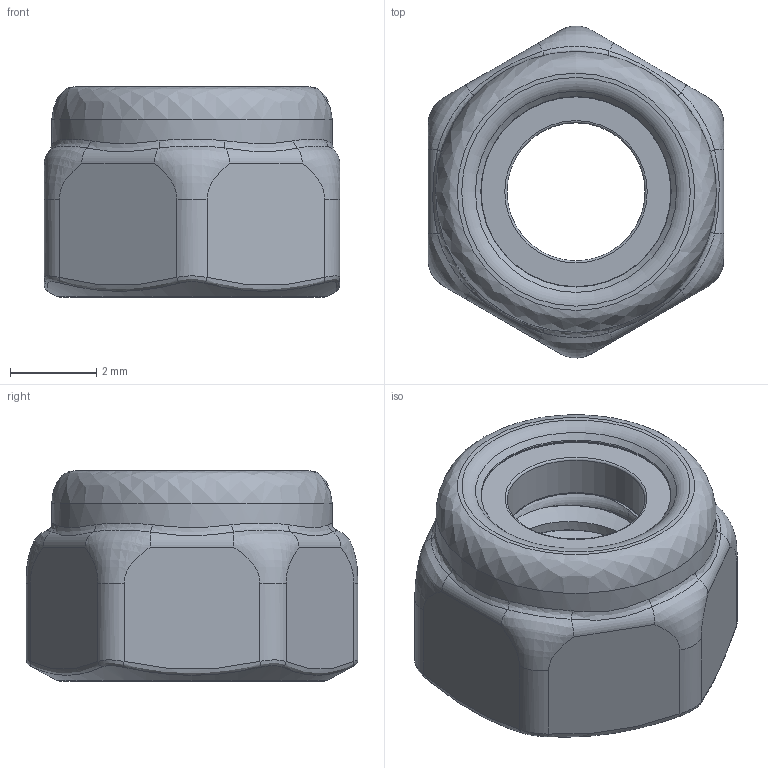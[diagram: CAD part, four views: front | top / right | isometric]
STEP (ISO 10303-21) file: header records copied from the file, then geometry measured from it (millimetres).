
FILE_DESCRIPTION(/* description */ ('','CAx-IF Rec.Pracs.---Representation and Presentation of Product Manufacturing Information (PMI)---4.0---2014-10-13'),/* implementation_level */ '2;1');
FILE_NAME(/* name */ '2812-0004-0007.step',/* time_stamp */ '2024-11-21T13:48:35-06:00',/* author */ (''),/* organization */ (''),/* preprocessor_version */ 'ST-DEVELOPER v20',/* originating_system */ 'Autodesk Translation Framework v13.20.0.188',/* authorisation */ '');
FILE_SCHEMA (('AP242_MANAGED_MODEL_BASED_3D_ENGINEERING_MIM_LF { 1 0 10303 442 1 1 4 }'));
Length unit declared in the file: millimetre
Products named in the file (1): 2812-0004-0007_NEW
Bounding box: 6.85 x 7.69 x 4.87 mm (x, y, z)
Volume: 128.4 mm3; surface area: 331.9 mm2
Topology: 2 solids, 2 shells, 96 faces, 437 edges, 348 vertices
Faces by surface type: bspline 35, cylinder 26, torus 14, plane 13, cone 8
Full cylindrical faces by diameter (mm): 3.2 x1, 3.4 x1, 4.109 x3, 6.16 x2, 6.5 x1
Entity records: 20899 total; most frequent: CARTESIAN_POINT 17752, ORIENTED_EDGE 874, EDGE_CURVE 437, DIRECTION 416, VERTEX_POINT 348, B_SPLINE_CURVE_WITH_KNOTS 238, AXIS2_PLACEMENT_3D 189, CIRCLE 120
